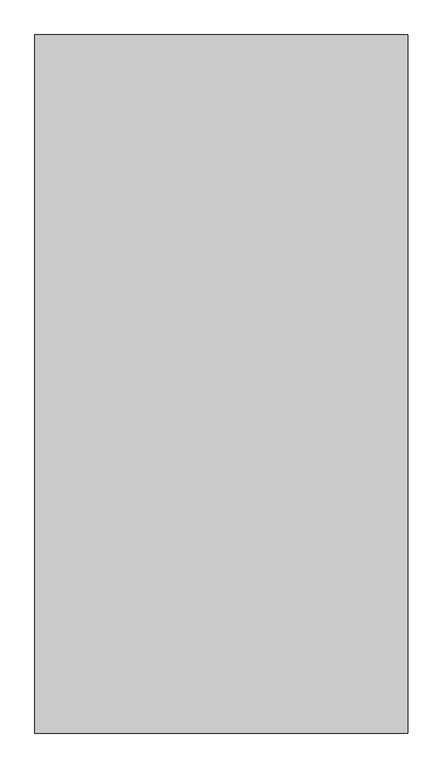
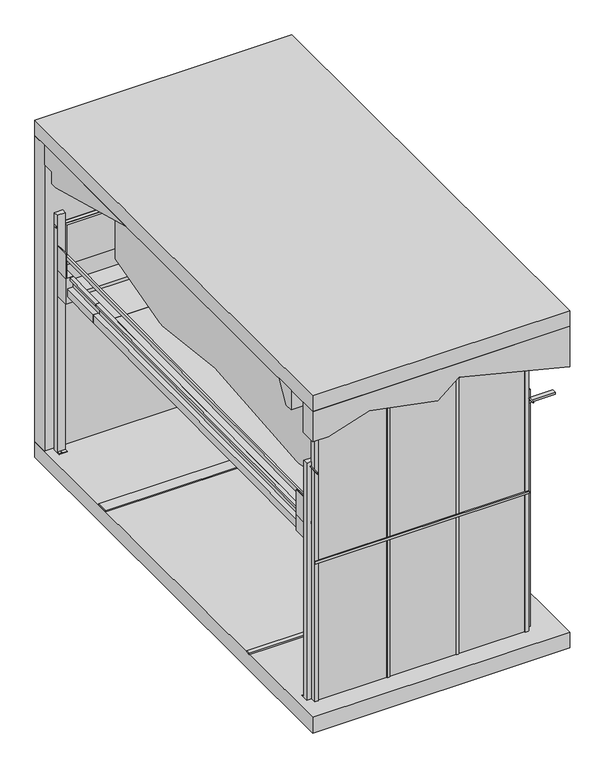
"""IFC4 building model written with IfcOpenShell, lengths in millimetres: proxy geometry, TrendVario 6200+ : TrendVario 6200+."""

from ifc_helpers import new_model, si_unit, point, frame, frame_2d, origin, origin_with_axes, place, context, project, spatial, polyline, circle_curve, trimmed, segment, composite_curve, outline, extrude, faceted_brep, source, transform, mapped, element, save
from ifc_brep_helpers import plane_surface, cylinder_surface, advanced_brep


def generic_models_f09f2414(model_context):
    return source(origin(), model_context, "Body", "SolidModel", [
        extrude(outline(composite_curve([segment(trimmed(circle_curve(frame_2d((2650.0, 5300.0602659)), 6.0), [point((2650.0, 5294.0602659))], [point((2650.0, 5306.0602659))], False, "CARTESIAN"), True, "CONTINUOUS"), segment(trimmed(circle_curve(frame_2d((2650.0, 5300.0602659)), 6.0), [point((2650.0, 5306.0602659))], [point((2650.0, 5294.0602659))], False, "CARTESIAN"), True, "CONTINUOUS")], self_intersect=False)), frame((0.0, 0.0, -150.0), z_axis=(0.0, 0.0, 1.0), x_axis=(1.0, 0.0, 0.0)), (0.0, 0.0, 1.0), 150.0),
        extrude(outline(composite_curve([segment(trimmed(circle_curve(frame_2d((50.0, 5300.0602653)), 6.0), [point((44.0, 5300.0602653))], [point((56.0, 5300.0602653))], False, "CARTESIAN"), True, "CONTINUOUS"), segment(trimmed(circle_curve(frame_2d((50.0, 5300.0602653)), 6.0), [point((56.0, 5300.0602653))], [point((44.0, 5300.0602653))], False, "CARTESIAN"), True, "CONTINUOUS")], self_intersect=False)), frame((0.0, 0.0, -150.0), z_axis=(0.0, 0.0, 1.0), x_axis=(1.0, 0.0, 0.0)), (0.0, 0.0, 1.0), 150.0),
        extrude(outline(composite_curve([segment(trimmed(circle_curve(frame_2d((2650.0, 170.0)), 6.0), [point((2650.0, 164.0))], [point((2650.0, 176.0))], False, "CARTESIAN"), True, "CONTINUOUS"), segment(trimmed(circle_curve(frame_2d((2650.0, 170.0)), 6.0), [point((2650.0, 176.0))], [point((2650.0, 164.0))], False, "CARTESIAN"), True, "CONTINUOUS")], self_intersect=False)), frame((0.0, 0.0, -150.0), z_axis=(0.0, 0.0, 1.0), x_axis=(1.0, 0.0, 0.0)), (0.0, 0.0, 1.0), 150.0),
        extrude(outline(composite_curve([segment(trimmed(circle_curve(frame_2d((50.0, 170.0)), 6.0), [point((44.0, 170.0))], [point((56.0, 170.0))], False, "CARTESIAN"), True, "CONTINUOUS"), segment(trimmed(circle_curve(frame_2d((50.0, 170.0)), 6.0), [point((56.0, 170.0))], [point((44.0, 170.0))], False, "CARTESIAN"), True, "CONTINUOUS")], self_intersect=False)), frame((0.0, 0.0, -150.0), z_axis=(0.0, 0.0, 1.0), x_axis=(1.0, 0.0, 0.0)), (0.0, 0.0, 1.0), 150.0),
        extrude(outline(composite_curve([segment(trimmed(circle_curve(frame_2d((2965.0, 2650.0)), 6.0), [point((2965.0, 2644.0))], [point((2965.0, 2656.0))], False, "CARTESIAN"), True, "CONTINUOUS"), segment(trimmed(circle_curve(frame_2d((2965.0, 2650.0)), 6.0), [point((2965.0, 2656.0))], [point((2965.0, 2644.0))], False, "CARTESIAN"), True, "CONTINUOUS")], self_intersect=False)), frame((0.0, -50.0, 0.0), z_axis=(0.0, 1.0, 0.0), x_axis=(0.0, 0.0, 1.0)), (0.0, 0.0, 1.0), 150.0),
        extrude(outline(composite_curve([segment(trimmed(circle_curve(frame_2d((2965.0, 50.0)), 6.0), [point((2965.0, 44.0))], [point((2965.0, 56.0))], False, "CARTESIAN"), True, "CONTINUOUS"), segment(trimmed(circle_curve(frame_2d((2965.0, 50.0)), 6.0), [point((2965.0, 56.0))], [point((2965.0, 44.0))], False, "CARTESIAN"), True, "CONTINUOUS")], self_intersect=False)), frame((0.0, -50.0, 0.0), z_axis=(0.0, 1.0, 0.0), x_axis=(0.0, 0.0, 1.0)), (0.0, 0.0, 1.0), 150.0),
        extrude(outline(composite_curve([segment(trimmed(circle_curve(frame_2d((2965.0, 50.0)), 6.0), [point((2965.0, 44.0))], [point((2965.0, 56.0))], False, "CARTESIAN"), True, "CONTINUOUS"), segment(trimmed(circle_curve(frame_2d((2965.0, 50.0)), 6.0), [point((2965.0, 56.0))], [point((2965.0, 44.0))], False, "CARTESIAN"), True, "CONTINUOUS")], self_intersect=False)), frame((0.0, 5369.5816653, 0.0), z_axis=(0.0, 1.0, 0.0), x_axis=(0.0, 0.0, 1.0)), (0.0, 0.0, 1.0), 150.0),
        extrude(outline(composite_curve([segment(trimmed(circle_curve(frame_2d((2965.0, 2650.0)), 6.0), [point((2965.0, 2644.0))], [point((2965.0, 2656.0))], False, "CARTESIAN"), True, "CONTINUOUS"), segment(trimmed(circle_curve(frame_2d((2965.0, 2650.0)), 6.0), [point((2965.0, 2656.0))], [point((2965.0, 2644.0))], False, "CARTESIAN"), True, "CONTINUOUS")], self_intersect=False)), frame((0.0, 5369.6045102, 0.0), z_axis=(0.0, 1.0, 0.0), x_axis=(0.0, 0.0, 1.0)), (0.0, 0.0, 1.0), 150.0),
        extrude(outline(polyline([(0.0, -60.0), (0.0, 0.0), (4430.0, 0.0), (4430.0, -60.0), (0.0, -60.0)])), frame((2611.0, 171.9869847, 2038.264563), z_axis=(0.0, -0.008726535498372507, 0.9999619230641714), x_axis=(0.0, 0.9999619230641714, 0.008726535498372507)), (0.0, 0.0, 1.0), 100.0),
        extrude(outline(polyline([(0.0, -19.0), (0.0, 0.0), (4440.0, 0.0), (4440.0, -19.0), (0.0, -19.0)])), frame((2663.0, 167.9116926, 2505.246781), z_axis=(0.0, -0.008726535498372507, 0.9999619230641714), x_axis=(0.0, 0.9999619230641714, 0.008726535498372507)), (0.0, 0.0, 1.0), 56.0),
        faceted_brep([(2600.0, 4599.8286538, 2304.9144337), (2643.0, 4599.8286538, 2304.9144337), (2643.0, 4600.0904499, 2274.915576), (2640.0, 4600.0904499, 2274.915576), (2640.0, 4599.8548334, 2301.9145479), (2603.0, 4599.8548334, 2301.9145479), (2603.0, 4602.6211451, 1984.9266183), (2548.0, 4602.6211451, 1984.9266183), (2548.0, 4602.210998, 2031.9248287), (2511.0, 4602.210998, 2031.9248287), (2511.0, 4602.1848184, 2034.9247145), (2551.0, 4602.1848184, 2034.9247145), (2551.0, 4602.5949655, 1987.9265041), (2600.0, 4602.5949655, 1987.9265041), (2603.0, 102.7924914, 1945.6572086), (2603.0, 100.0261796, 2262.6451382), (2640.0, 100.0261796, 2262.6451382), (2640.0, 100.2617961, 2235.6461663), (2643.0, 100.2617961, 2235.6461663), (2643.0, 100.0, 2265.645024), (2600.0, 100.0, 2265.645024), (2600.0, 102.7924914, 1945.6572086), (2600.0, 202.7886837, 1946.5298621), (2548.0, 202.7886837, 1946.5298621), (2548.0, 202.3785365, 1993.5280725), (2511.0, 202.3785365, 1993.5280725), (2511.0, 202.3523569, 1996.5279583), (2551.0, 202.3523569, 1996.5279583), (2551.0, 202.7625041, 1949.5297479), (2600.0, 202.7625041, 1949.5297479)], [[[0, 1, 2, 3, 4, 5, 6, 7, 8, 9, 10, 11, 12, 13]], [[14, 15, 16, 17, 18, 19, 20, 21]], [[1, 0, 20, 19]], [[2, 1, 19, 18]], [[3, 2, 18, 17]], [[4, 3, 17, 16]], [[5, 4, 16, 15]], [[6, 5, 15, 14]], [[7, 6, 14, 21, 22, 23]], [[8, 7, 23, 24]], [[9, 8, 24, 25]], [[10, 9, 25, 26]], [[11, 10, 26, 27]], [[12, 11, 27, 28]], [[13, 12, 28, 29]], [[0, 13, 29, 22, 21, 20]], [[22, 29, 28, 27, 26, 25, 24, 23]]]),
        extrude(outline(polyline([(2133.867435, 0.0), (2133.867435, -1000.0), (-1962.132565, -1000.0), (-1962.132565, 0.0), (2133.867435, 0.0)])), frame((1600.0, 2468.3986345, 2016.3034445), z_axis=(0.0, -0.008726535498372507, 0.9999619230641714), x_axis=(0.0, 0.9999619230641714, 0.008726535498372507)), (0.0, 0.0, 1.0), 8.0),
        extrude(outline(polyline([(0.0, -1500.0), (0.0, 0.0), (769.9999999, 0.0), (769.9999999, -1500.0), (0.0, -1500.0)])), frame((100.0, 4602.1898877, 2034.9247587), z_axis=(0.0, -0.008726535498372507, 0.9999619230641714), x_axis=(0.0, 0.9999619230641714, 0.008726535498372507)), (0.0, 0.0, 1.0), 8.0),
        extrude(outline(polyline([(5133.7158509, 2091.5652956), (5371.7067886, 2093.642211), (5372.0907561, 2049.6438864), (5369.0908704, 2049.6177068), (5368.7330824, 2090.6161457), (5136.7419163, 2088.5915894), (5137.0997042, 2047.5931506), (5134.0998185, 2047.566971), (5133.7158509, 2091.5652956)])), frame((100.0, 0.0, 0.0), z_axis=(1.0, 0.0, 0.0), x_axis=(0.0, 1.0, 0.0)), (0.0, 0.0, 1.0), 1500.0),
        extrude(outline(polyline([(319.9999999, 0.0), (319.9999999, -43.0), (289.9999999, -43.0), (289.9999999, -40.0), (317.0, -40.0), (317.0, -3.0), (0.0, -3.0), (0.0, 52.0), (46.9999999, 52.0), (46.9999999, 89.0), (49.9999999, 89.0), (49.9999999, 49.0), (2.9999999, 49.0), (2.9999999, 0.0), (319.9999999, 0.0)])), frame((100.0, 4602.6262144, 1984.9266626), z_axis=(0.0, 0.9999619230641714, 0.008726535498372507), x_axis=(0.0, -0.008726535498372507, 0.9999619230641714)), (0.0, 0.0, 1.0), 770.0),
        extrude(outline(polyline([(200.0, 8.0), (200.0, 0.0), (100.0, 0.0), (100.0, 3025.0), (160.0, 3025.0), (160.0, 8.0), (200.0, 8.0)])), frame((0.0, 0.0, 0.0), z_axis=(1.0, 0.0, 0.0), x_axis=(0.0, 1.0, 0.0)), (0.0, 0.0, 1.0), 100.0),
        faceted_brep([(-100.0, 5249.9885779, 3650.0), (3000.0, 5249.9885779, 3650.0), (3000.0, 5249.9885779, 3500.0), (-100.0, 5249.9885779, 3500.0), (-100.0, 5399.9657348, 3650.0), (3000.0, 5399.9657348, 3650.0), (3000.0, 5167.6820669, 3500.0), (3000.0, 3699.9673137, 3900.0057953), (-100.0, 3699.9885779, 3900.0), (-100.0, 5167.6820669, 3500.0), (3000.0, 5399.9657348, 3900.0), (-100.0, 5399.9657348, 3900.0)], [[[0, 1, 2, 3]], [[1, 0, 4, 5]], [[6, 7, 8, 9]], [[10, 7, 6, 2, 1, 5]], [[8, 11, 4, 0, 3, 9]], [[11, 10, 5, 4]], [[7, 10, 11, 8]], [[2, 6, 9, 3]]]),
        extrude(outline(polyline([(3511.8273555, -100.0), (3511.8273555, 90.0080034), (3672.5161926, 584.5573919), (3511.8273555, 1411.229794), (3719.8801857, 1665.5456754), (3387.1633541, 3000.0), (3900.0, 3000.0), (3900.0, -100.0), (3511.8273555, -100.0)])), frame((0.0, -200.0, 0.0), z_axis=(0.0, 1.0, 0.0), x_axis=(0.0, 0.0, 1.0)), (0.0, 0.0, 1.0), 200.0),
        extrude(outline(polyline([(100.0, 45.0), (100.0, 55.0), (2600.0, 55.0), (2600.0, 45.0), (100.0, 45.0)])), origin_with_axes(), (0.0, 0.0, 1.0), 3526.0),
        extrude(outline(polyline([(1798.6666667, 44.0), (1798.6666667, 35.0), (1768.6666667, 35.0), (1768.6666667, 44.0), (1798.6666667, 44.0)])), origin_with_axes(), (0.0, 0.0, 1.0), 3526.0),
        extrude(outline(polyline([(964.3333333, 44.0), (964.3333333, 35.0), (934.3333333, 35.0), (934.3333333, 44.0), (964.3333333, 44.0)])), origin_with_axes(), (0.0, 0.0, 1.0), 3526.0),
        extrude(outline(polyline([(0.0, -19.0), (0.0, 0.0), (5147.1058324, 0.0), (5147.1058324, -19.0), (0.0, -19.0)])), frame((37.0, 5302.7546227, 2550.0578764), z_axis=(0.0, -0.008726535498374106, 0.9999619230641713), x_axis=(0.0, -0.9999619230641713, -0.008726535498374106)), (0.0, 0.0, 1.0), 56.0),
        extrude(outline(polyline([(18.0, 5142.5968952), (7.0, 5142.5968952), (7.0, 5312.5968952), (18.0, 5312.5968952), (18.0, 5142.5968952)])), frame((0.0, 0.0, 2319.0), z_axis=(0.0, 0.0, 1.0), x_axis=(1.0, 0.0, 0.0)), (0.0, 0.0, 1.0), 310.0),
        extrude(outline(polyline([(2682.0, 5142.0602659), (2682.0, 5312.0602659), (2693.0, 5312.0602659), (2693.0, 5142.0602659), (2682.0, 5142.0602659)])), frame((0.0, 0.0, 2319.0), z_axis=(0.0, 0.0, 1.0), x_axis=(1.0, 0.0, 0.0)), (0.0, 0.0, 1.0), 310.0),
        extrude(outline(polyline([(5369.6045102, 0.0), (5270.0602659, 0.0), (5270.0602659, 8.0), (5310.0602659, 8.0), (5310.0602659, 3025.0), (5369.6045102, 3025.0), (5369.6045102, 0.0)])), frame((2600.0, 0.0, 0.0), z_axis=(1.0, 0.0, 0.0), x_axis=(0.0, 1.0, 0.0)), (0.0, 0.0, 1.0), 100.0),
        extrude(outline(polyline([(5269.5968952, 0.0), (5269.5968952, 8.0), (5309.5968952, 8.0), (5309.5968952, 3025.0), (5369.5968952, 3025.0), (5369.5968952, 0.0), (5269.5968952, 0.0)])), frame((0.0, 0.0, 0.0), z_axis=(1.0, 0.0, 0.0), x_axis=(0.0, 1.0, 0.0)), (0.0, 0.0, 1.0), 100.0),
        advanced_brep(
        [(650.0080034, 219.0783305, 2530.0), (650.0080034, 212.7549246, 3254.5905482), (650.0080034, 507.9448535, 3807.0791047), (650.0080034, 614.5742843, 3808.0096456), (650.0080034, 616.0660458, 3810.8016825), (650.0080034, 3620.0751529, 3837.0172728), (650.0080034, 5220.0526533, 3400.9650555), (650.0080034, 5220.0602659, 2299.8475577), (650.0080034, 4315.7898833, 2049.0711861), (650.0080034, 4227.211946, 2040.6781608), (650.0080034, 3146.7425411, 2165.2190354), (650.0080034, 1426.7734714, 2016.5954437), (650.0080034, 1343.0441931, 2020.9835093), (650.0080034, 226.8699728, 2268.4333765), (650.0080034, 224.5873155, 2530.0), (2550.0080034, 507.9448535, 3807.0791047), (2550.0080034, 212.7549245, 3254.5905482), (2550.0080034, 219.0783305, 2530.0), (2550.0080034, 224.5873155, 2530.0), (2550.0080034, 226.8699728, 2268.4333765), (2550.0080034, 1343.0441931, 2020.9835093), (2550.0080034, 1426.7734714, 2016.5954437), (2550.0080034, 3146.7425411, 2165.2190354), (2550.0080034, 4227.211946, 2040.6781608), (2550.0080034, 4315.7898833, 2049.0711861), (2550.0080034, 5220.0602659, 2299.8475577), (2550.0080034, 5220.0526533, 3400.9650555), (2550.0080034, 3620.0751529, 3837.0172728), (2550.0080034, 616.0660458, 3810.8016825), (2550.0080034, 614.5742843, 3808.0096456)],
        [
            (0, 1),
            (1, 2),
            (2, 3),
            (3, 4),
            (4, 5),
            (5, 6),
            (6, 7),
            (7, 8),
            (8, 9, circle_curve(frame((650.0080034, 4247.9113358, 2293.8333213), z_axis=(-1.0, 6.846874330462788e-12, 0.0), x_axis=(6.846340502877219e-12, 0.9999619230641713, 0.008726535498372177)), 254.0)),
            (9, 10),
            (10, 11),
            (11, 12, circle_curve(frame((650.0080034, 1398.0198551, 2268.9626951), z_axis=(-1.0, 6.846874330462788e-12, 0.0), x_axis=(6.846340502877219e-12, 0.9999619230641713, 0.008726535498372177)), 254.0)),
            (12, 13),
            (13, 14),
            (14, 0),
            (15, 16),
            (16, 17),
            (17, 18),
            (18, 19),
            (19, 20),
            (20, 21, circle_curve(frame((2550.0080034, 1398.0198551, 2268.9626951), z_axis=(1.0, -6.846874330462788e-12, 0.0), x_axis=(6.846340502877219e-12, 0.9999619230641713, 0.008726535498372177)), 254.0)),
            (21, 22),
            (22, 23),
            (23, 24, circle_curve(frame((2550.0080034, 4247.9113358, 2293.8333213), z_axis=(1.0, -6.846874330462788e-12, 0.0), x_axis=(6.846340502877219e-12, 0.9999619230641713, 0.008726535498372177)), 254.0)),
            (24, 25),
            (25, 26),
            (26, 27),
            (27, 28),
            (28, 29),
            (29, 15),
            (2, 15),
            (29, 3),
            (1, 16),
            (17, 0),
            (14, 18),
            (4, 28),
            (27, 5),
            (26, 6),
            (25, 7),
            (24, 8),
            (23, 9),
            (22, 10),
            (21, 11),
            (20, 12),
            (19, 13),
        ],
        [
            plane_surface(frame((650.0080034, 428.8717402, 3900.0), z_axis=(-1.0, 6.846035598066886e-12, 0.0), x_axis=(0.0, 0.0, 1.0))),
            plane_surface(frame((2550.0080034, 428.8717402, 3900.0), z_axis=(1.0, -6.846035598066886e-12, 0.0), x_axis=(0.0, 0.0, 1.0))),
            plane_surface(frame((650.0080034, 507.9448535, 3807.0791047), z_axis=(0.0, -0.008726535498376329, 0.9999619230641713), x_axis=(1.0, -6.846035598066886e-12, 0.0))),
            plane_surface(frame((650.0080034, 212.7549246, 3254.5905482), z_axis=(-6.038215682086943e-12, -0.8820017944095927, 0.4712460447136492), x_axis=(1.0, -6.846035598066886e-12, 0.0))),
            plane_surface(frame((650.0080034, 4789.9238543, 2530.0), z_axis=(0.0, 0.0, -1.0), x_axis=(1.0, -6.845999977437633e-12, 0.0))),
            plane_surface(frame((650.0080034, 219.0783305, 2530.0), z_axis=(-6.845774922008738e-12, -0.9999619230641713, -0.008726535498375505), x_axis=(1.0, -6.846035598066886e-12, 0.0))),
            plane_surface(frame((650.0080034, 616.0660458, 3810.8016825), z_axis=(0.0, -0.008726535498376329, 0.9999619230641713), x_axis=(1.0, -6.845999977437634e-12, 0.0))),
            plane_surface(frame((650.0080034, 3620.0751529, 3837.0172728), z_axis=(1.8001286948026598e-12, 0.2629460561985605, 0.9648105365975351), x_axis=(1.0, -6.845999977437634e-12, 0.0))),
            plane_surface(frame((650.0080034, 320.8761169, 3258.313126), z_axis=(-6.0382156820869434e-12, -0.8820017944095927, 0.4712460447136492), x_axis=(1.0, -6.846035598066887e-12, 0.0))),
            plane_surface(frame((650.0080034, 5220.0526533, 3400.9650555), z_axis=(6.845999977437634e-12, 1.0, 0.0), x_axis=(1.0, -6.845999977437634e-12, 0.0))),
            plane_surface(frame((2550.0080034, 4315.7898833, 2049.0711861), z_axis=(1.7721223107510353e-12, 0.26723837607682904, -0.963630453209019), x_axis=(-1.0, 6.8459999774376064e-12, 0.0))),
            cylinder_surface(frame((2550.0080034, 4247.9113358, 2293.8333213), z_axis=(1.0, -6.846874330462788e-12, 0.0), x_axis=(6.846340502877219e-12, 0.9999619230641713, 0.008726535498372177)), 254.0),
            plane_surface(frame((2550.0080034, 3146.7425411, 2165.2190354), z_axis=(0.0, -0.11450735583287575, -0.9934224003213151), x_axis=(-1.0, 6.845999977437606e-12, 0.0))),
            plane_surface(frame((2550.0080034, 1426.7734714, 2016.5954437), z_axis=(0.0, 0.08608980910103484, -0.9962873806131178), x_axis=(-1.0, 6.845999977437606e-12, 0.0))),
            cylinder_surface(frame((2550.0080034, 1398.0198551, 2268.9626951), z_axis=(1.0, -6.846874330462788e-12, 0.0), x_axis=(6.846340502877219e-12, 0.9999619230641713, 0.008726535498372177)), 254.0),
            plane_surface(frame((2550.0080034, 226.8699728, 2268.4333765), z_axis=(-1.5398915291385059e-12, -0.21643961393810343, -0.9762960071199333), x_axis=(-1.0, 6.845999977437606e-12, 0.0))),
            plane_surface(frame((2550.0080034, 220.9776342, 2943.6285041), z_axis=(-6.8462590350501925e-12, -0.9999619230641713, -0.00872653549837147), x_axis=(-1.0, 6.845999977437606e-12, 0.0))),
        ],
        [
            (0, [[1, 2, 3, 4, 5, 6, 7, 8, 9, 10, 11, 12, 13, 14, 15]]),
            (1, [[16, 17, 18, 19, 20, 21, 22, 23, 24, 25, 26, 27, 28, 29, 30]]),
            (2, [[31, -30, 32, -3]]),
            (3, [[-2, 33, -16, -31]]),
            (4, [[34, -15, 35, -18]]),
            (5, [[-1, -34, -17, -33]]),
            (6, [[-5, 36, -28, 37]]),
            (7, [[-6, -37, -27, 38]]),
            (8, [[-36, -4, -32, -29]]),
            (9, [[-7, -38, -26, 39]]),
            (10, [[-25, 40, -8, -39]]),
            (11, [[-24, 41, -9, -40]]),
            (12, [[-23, 42, -10, -41]]),
            (13, [[-22, 43, -11, -42]]),
            (14, [[-21, 44, -12, -43]]),
            (15, [[-20, 45, -13, -44]]),
            (16, [[-45, -19, -35, -14]]),
        ],
    ),
        extrude(outline(polyline([(1798.6666667, 35.0), (1768.6666667, 35.0), (1768.6666667, 44.0), (1798.6666667, 44.0), (1798.6666667, 35.0)])), origin_with_axes(), (0.0, 0.0, 1.0), 3526.0),
        extrude(outline(polyline([(964.3333333, 35.0), (934.3333333, 35.0), (934.3333333, 44.0), (964.3333333, 44.0), (964.3333333, 35.0)])), origin_with_axes(), (0.0, 0.0, 1.0), 3526.0),
        extrude(outline(polyline([(3000.0, 153.0), (3000.0, 100.0), (97.0, 100.0), (97.0, 153.0), (3000.0, 153.0)])), frame((0.0, 0.0, 2854.0), z_axis=(0.0, 0.0, 1.0), x_axis=(1.0, 0.0, 0.0)), (0.0, 0.0, 1.0), 25.0),
        extrude(outline(polyline([(-3.0, 5319.5968952), (-3.0, 5369.5968952), (3000.0, 5369.5968952), (3000.0, 5319.5968952), (-3.0, 5319.5968952)])), frame((0.0, 0.0, 2854.0), z_axis=(0.0, 0.0, 1.0), x_axis=(1.0, 0.0, 0.0)), (0.0, 0.0, 1.0), 25.0),
        extrude(outline(polyline([(700.0, 5369.6045096), (700.0, 5284.6045096), (100.0, 5284.6045096), (100.0, 5369.6045096), (700.0, 5369.6045096)])), frame((0.0, 0.0, 2379.0), z_axis=(0.0, 0.0, 1.0), x_axis=(1.0, 0.0, 0.0)), (0.0, 0.0, 1.0), 500.0),
        extrude(outline(polyline([(250.0, 3650.0), (250.0, 3900.0), (500.0, 3900.0), (349.6363636, 3650.0), (250.0, 3650.0)])), frame((-100.0, 0.0, 0.0), z_axis=(1.0, 0.0, 0.0), x_axis=(0.0, 1.0, 0.0)), (0.0, 0.0, 1.0), 3100.0),
        extrude(outline(polyline([(60.0, 32.0), (60.0, 100.0), (2640.0, 100.0), (2640.0, 32.0), (60.0, 32.0)])), frame((0.0, 0.0, 3526.0), z_axis=(0.0, 0.0, 1.0), x_axis=(1.0, 0.0, 0.0)), (0.0, 0.0, 1.0), 74.0),
        extrude(outline(polyline([(60.0, 20.0), (60.0, 34.0), (2640.0, 34.0), (2640.0, 20.0), (60.0, 20.0)])), frame((0.0, 0.0, 1763.0), z_axis=(0.0, 0.0, 1.0), x_axis=(1.0, 0.0, 0.0)), (0.0, 0.0, 1.0), 30.0),
        extrude(outline(polyline([(2640.0, 32.0), (2600.0, 32.0), (2600.0, 100.0), (2640.0, 100.0), (2640.0, 32.0)])), origin_with_axes(), (0.0, 0.0, 1.0), 3526.0),
        extrude(outline(polyline([(100.0, 32.0), (60.0, 32.0), (60.0, 100.0), (100.0, 100.0), (100.0, 32.0)])), origin_with_axes(), (0.0, 0.0, 1.0), 3526.0),
        extrude(outline(polyline([(0.0, -19.0), (0.0, 0.0), (702.4860602, 0.0), (702.4860602, -19.0), (0.0, -19.0)])), frame((2682.0, 5310.2019427, 2550.1228682), z_axis=(0.0, -0.008726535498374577, 0.9999619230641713), x_axis=(0.0, -0.9999619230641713, -0.008726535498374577)), (0.0, 0.0, 1.0), 56.0),
        extrude(outline(polyline([(0.0, -59.9999949), (0.0, 0.0), (622.0497333, 0.0), (622.0497333, -59.9999949), (0.0, -59.9999949)])), frame((2610.9999948, 4601.8183039, 2076.9231152), z_axis=(0.0, -0.00872653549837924, 0.9999619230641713), x_axis=(0.0, 0.9999619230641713, 0.00872653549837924)), (0.0, 0.0, 1.0), 100.0),
        extrude(outline(polyline([(0.0, -60.0), (0.0, 0.0), (4430.0, 0.0), (4430.0, -60.0), (0.0, -60.0)])), frame((29.0, 171.9869847, 2038.264563), z_axis=(0.0, -0.008726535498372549, 0.9999619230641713), x_axis=(0.0, 0.9999619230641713, 0.008726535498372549)), (0.0, 0.0, 1.0), 100.0),
        extrude(outline(polyline([(0.0, -60.0), (0.0, 0.0), (585.0, 0.0), (585.0, -60.0), (0.0, -60.0)])), frame((29.0, 4601.8233732, 2076.9231595), z_axis=(0.0, -0.008726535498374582, 0.9999619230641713), x_axis=(0.0, 0.9999619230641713, 0.008726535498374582)), (0.0, 0.0, 1.0), 100.0),
        extrude(outline(polyline([(5312.0602659, 1991.0934303), (5142.0602659, 1989.6098628), (5142.0602659, 2314.0), (5312.0602659, 2314.0), (5312.0602659, 1991.0934303)])), frame((2603.0, 0.0, 0.0), z_axis=(1.0, 0.0, 0.0), x_axis=(0.0, 1.0, 0.0)), (0.0, 0.0, 1.0), 90.0),
        extrude(outline(polyline([(5142.5968952, 1989.6145459), (5142.5968952, 2314.0), (5312.5968952, 2314.0), (5312.5968952, 1991.0981134), (5142.5968952, 1989.6145459)])), frame((7.0, 0.0, 0.0), z_axis=(1.0, 0.0, 0.0), x_axis=(0.0, 1.0, 0.0)), (0.0, 0.0, 1.0), 90.0),
        extrude(outline(polyline([(7.0, 160.0), (7.0, 330.0), (18.0, 330.0), (18.0, 160.0), (7.0, 160.0)])), frame((0.0, 0.0, 2229.0), z_axis=(0.0, 0.0, 1.0), x_axis=(1.0, 0.0, 0.0)), (0.0, 0.0, 1.0), 315.0),
        extrude(outline(polyline([(7.0, 160.0), (7.0, 330.0), (97.0, 330.0), (97.0, 160.0), (7.0, 160.0)])), frame((0.0, 0.0, 2029.0), z_axis=(0.0, 0.0, 1.0), x_axis=(1.0, 0.0, 0.0)), (0.0, 0.0, 1.0), 195.0),
        extrude(outline(polyline([(2693.0, 330.0), (2693.0, 160.0), (2682.0, 160.0), (2682.0, 330.0), (2693.0, 330.0)])), frame((0.0, 0.0, 2229.0), z_axis=(0.0, 0.0, 1.0), x_axis=(1.0, 0.0, 0.0)), (0.0, 0.0, 1.0), 315.0),
        extrude(outline(polyline([(2693.0, 330.0), (2693.0, 160.0), (2603.0, 160.0), (2603.0, 330.0), (2693.0, 330.0)])), frame((0.0, 0.0, 2029.0), z_axis=(0.0, 0.0, 1.0), x_axis=(1.0, 0.0, 0.0)), (0.0, 0.0, 1.0), 195.0),
        extrude(outline(polyline([(100.0, 0.0), (100.0, 3025.0), (160.0, 3025.0), (160.0, 8.0), (200.0, 8.0), (200.0, 0.0), (100.0, 0.0)])), frame((2600.0, 0.0, 0.0), z_axis=(1.0, 0.0, 0.0), x_axis=(0.0, 1.0, 0.0)), (0.0, 0.0, 1.0), 100.0),
        extrude(outline(polyline([(2603.0, 5372.5968952), (2603.0, 5319.5968952), (97.0, 5319.5968952), (97.0, 5372.5968952), (2603.0, 5372.5968952)])), frame((0.0, 0.0, 2854.0), z_axis=(0.0, 0.0, 1.0), x_axis=(1.0, 0.0, 0.0)), (0.0, 0.0, 1.0), 25.0),
        extrude(outline(polyline([(2603.0, 140.0), (2603.0, 87.0), (100.0, 87.0), (100.0, 140.0), (2603.0, 140.0)])), frame((0.0, 0.0, 2854.0), z_axis=(0.0, 0.0, 1.0), x_axis=(1.0, 0.0, 0.0)), (0.0, 0.0, 1.0), 25.0),
        extrude(outline(polyline([(-100.0, 1119.5968952), (-100.0, 1179.5968952), (3000.0, 1179.5968952), (3000.0, 1119.5968952), (-100.0, 1119.5968952)])), origin_with_axes(), (0.0, 0.0, 1.0), 15.0),
        extrude(outline(polyline([(-100.0, 4119.5968952), (-100.0, 4265.5968952), (3000.0, 4265.5968952), (3000.0, 4119.5968952), (-100.0, 4119.5968952)])), origin_with_axes(), (0.0, 0.0, 1.0), 15.0),
        extrude(outline(polyline([(3000.0, 5399.9657348), (-100.0, 5399.9657348), (-100.0, 5599.9961923), (3000.0, 5599.9961923), (3000.0, 5399.9657348)])), origin_with_axes(), (0.0, 0.0, 1.0), 3900.0),
        faceted_brep([(100.0, 4599.8336906, 2304.9182049), (100.0, 4602.6000023, 1987.9302753), (149.0, 4602.6000023, 1987.9302753), (149.0, 4602.1898551, 2034.9284857), (189.0, 4602.1898551, 2034.9284857), (189.0, 4602.2160348, 2031.9285999), (152.0, 4602.2160348, 2031.9285999), (152.0, 4602.6261819, 1984.9303895), (97.0, 4602.6261819, 1984.9303895), (97.0, 4599.8598702, 2301.9183191), (60.0, 4599.8598702, 2301.9183191), (60.0, 4600.0954866, 2274.9193472), (57.0, 4600.0954866, 2274.9193472), (57.0, 4599.8336906, 2304.9182049), (100.0, 100.0, 1945.6365661), (100.0, 97.2075086, 2265.6243815), (57.0, 97.2075086, 2265.6243815), (57.0, 97.4693047, 2235.6255238), (60.0, 97.4693047, 2235.6255238), (60.0, 97.2336882, 2262.6244957), (97.0, 97.2336882, 2262.6244957), (97.0, 100.0, 1945.6365661), (100.0, 199.9961923, 1946.5092197), (100.0, 199.9700127, 1949.5091054), (149.0, 199.9700127, 1949.5091054), (149.0, 199.5598655, 1996.5073158), (189.0, 199.5598655, 1996.5073158), (189.0, 199.5860451, 1993.50743), (152.0, 199.5860451, 1993.50743), (152.0, 199.9961923, 1946.5092197)], [[[0, 1, 2, 3, 4, 5, 6, 7, 8, 9, 10, 11, 12, 13]], [[14, 15, 16, 17, 18, 19, 20, 21]], [[1, 0, 15, 14, 22, 23]], [[2, 1, 23, 24]], [[3, 2, 24, 25]], [[4, 3, 25, 26]], [[5, 4, 26, 27]], [[6, 5, 27, 28]], [[7, 6, 28, 29]], [[8, 7, 29, 22, 14, 21]], [[9, 8, 21, 20]], [[10, 9, 20, 19]], [[11, 10, 19, 18]], [[12, 11, 18, 17]], [[13, 12, 17, 16]], [[0, 13, 16, 15]], [[23, 22, 29, 28, 27, 26, 25, 24]]]),
        extrude(outline(polyline([(506.3333687, 2021.7621074), (506.6824301, 1981.7636305), (503.6825444, 1981.7374509), (503.3596625, 2018.736042), (261.7372106, 2016.6274348), (105.9840281, 1973.4332545), (112.3977491, 1950.3061236), (133.5976191, 1956.1853679), (134.3993342, 1953.2944765), (110.3085729, 1946.6135171), (102.2914216, 1975.5224307), (261.3160886, 2019.623874), (506.3333687, 2021.7621074)])), frame((100.0, 0.0, 0.0), z_axis=(1.0, 0.0, 0.0), x_axis=(0.0, 1.0, 0.0)), (0.0, 0.0, 1.0), 2500.0),
        extrude(outline(polyline([(3000.0, -200.0), (-100.0, -200.0), (-100.0, 5599.9961923), (3000.0, 5599.9961923), (3000.0, -200.0)])), frame((0.0, 0.0, -200.0), z_axis=(0.0, 0.0, 1.0), x_axis=(1.0, 0.0, 0.0)), (0.0, 0.0, 1.0), 200.0),
        extrude(outline(polyline([(3000.0, -200.0), (-100.0, -200.0), (-100.0, 5600.5968952), (3000.0, 5600.5968952), (3000.0, -200.0)])), frame((0.0, 0.0, 3900.0), z_axis=(0.0, 0.0, 1.0), x_axis=(1.0, 0.0, 0.0)), (0.0, 0.0, 1.0), 200.0),
        extrude(outline(polyline([(319.9719044, 0.0), (2.9719045, 0.0), (2.9719045, -49.0), (49.9719044, -49.0), (49.9719044, -89.0), (46.9719044, -89.0), (46.9719044, -52.0), (-0.0280956, -52.0), (-0.0280956, 3.0), (316.9719044, 3.0), (316.9719044, 40.0), (289.9719044, 40.0), (289.9719044, 43.0), (319.9719044, 43.0), (319.9719044, 0.0)])), frame((2600.0, 4602.6209, 1984.9303434), z_axis=(0.0, 0.9999619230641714, 0.008726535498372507), x_axis=(0.0, -0.008726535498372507, 0.9999619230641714)), (0.0, 0.0, 1.0), 770.0052822),
        extrude(outline(polyline([(100.4126792, 0.0), (100.4126792, -767.6410141), (-899.5873208, -767.6410141), (-899.5873208, 0.0), (100.4126792, 0.0)])), frame((2499.5873208, 5369.3942892, 2041.6200501), z_axis=(0.0, -0.008726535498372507, 0.9999619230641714), x_axis=(1.0, 0.0, 0.0)), (0.0, 0.0, 1.0), 8.0),
        extrude(outline(polyline([(5371.6762983, 2093.6456722), (5372.0602659, 2049.6473476), (5369.0603801, 2049.621168), (5368.7025922, 2090.6196068), (5136.711426, 2088.5950506), (5137.069214, 2047.5966117), (5134.0693282, 2047.5704321), (5133.6853606, 2091.5687567), (5371.6762983, 2093.6456722)])), frame((1600.0, 0.0, 0.0), z_axis=(1.0, 0.0, 0.0), x_axis=(0.0, 1.0, 0.0)), (0.0, 0.0, 1.0), 1000.0),
        extrude(outline(polyline([(2038.9337722, 0.0), (2038.9337722, -1500.0), (-2056.8816536, -1500.0), (-2056.8816536, 0.0), (2038.9337722, 0.0)])), frame((1600.0, 2545.3865539, 2016.9753079), z_axis=(0.0, -0.008726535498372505, 0.9999619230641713), x_axis=(0.0, -0.9999619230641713, -0.008726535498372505)), (0.0, 0.0, 1.0), 8.0),
    ])


if __name__ == "__main__":
    model = new_model("IFC4")
    model_context = context("Model", 3, world=origin())
    ifc_project = project(units=[si_unit("LENGTHUNIT", "METRE", prefix="MILLI")], contexts=[model_context])
    site = spatial("IfcSite", under=ifc_project)
    building = spatial("IfcBuilding", under=site)
    placement = place(None, origin())
    generic_models_shape = generic_models_f09f2414(model_context)
    element("IfcBuildingElementProxy", 1, Name="TrendVario 6200+ : TrendVario 6200+", ObjectType="TrendVario 6200+ : TrendVario 6200+", at=placement, inside=building, context=model_context, shape_type="MappedRepresentation", body=[
        mapped(generic_models_shape, transform((0.0, 0.0, 0.0), x_axis=(1.0, 0.0, 0.0), y_axis=(0.0, 1.0, 0.0), z_axis=(0.0, 0.0, 1.0))),
    ])
    save(model, "model.ifc")
